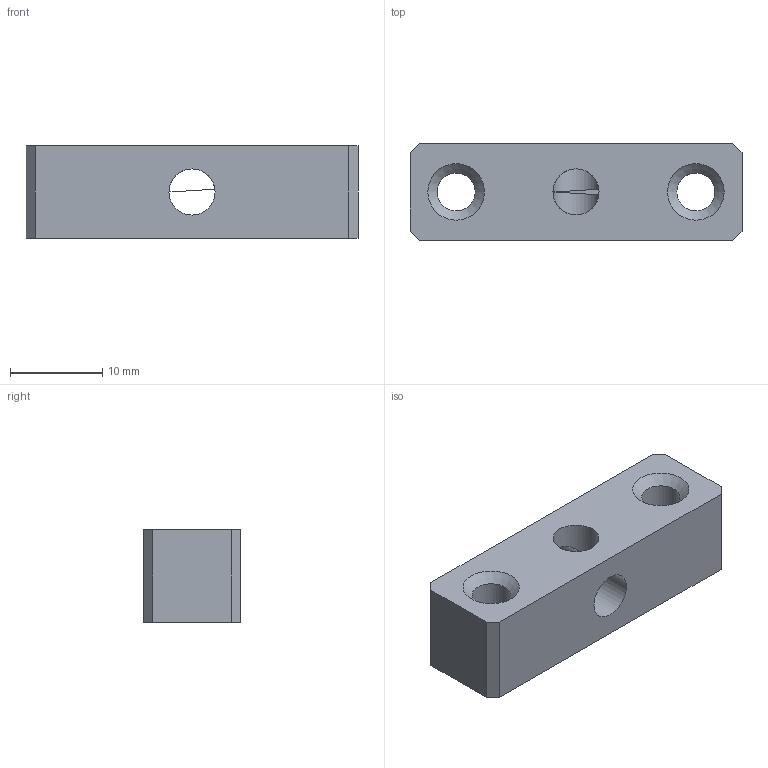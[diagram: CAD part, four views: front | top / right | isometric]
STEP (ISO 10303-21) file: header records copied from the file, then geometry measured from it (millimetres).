
FILE_DESCRIPTION(('STEP AP203'), '1');
FILE_NAME('眐珆1801.01.12.03.005 - 鍛鍧 儵馵膱', '', ('UNSPECIFIED'), ('UNSPECIFIED'), 'C3D Converter', 'C3D Toolkit', '');
FILE_SCHEMA(('CONFIG_CONTROL_DESIGN'));
Length unit declared in the file: millimetre
Products named in the file (1): ТППФ1801.01.12.03.005
Bounding box: 36 x 10.5 x 10 mm (x, y, z)
Volume: 3213.8 mm3; surface area: 1986.6 mm2
Topology: 1 solids, 1 shells, 16 faces, 42 edges, 27 vertices
Faces by surface type: plane 10, cylinder 4, cone 2
Full cylindrical faces by diameter (mm): 4.134 x2, 5 x2
Entity records: 640 total; most frequent: CARTESIAN_POINT 85, DIRECTION 76, ORIENTED_EDGE 70, EDGE_CURVE 35, EDGE_LOOP 30, VERTEX_POINT 27, AXIS2_PLACEMENT_3D 26, LINE 24
